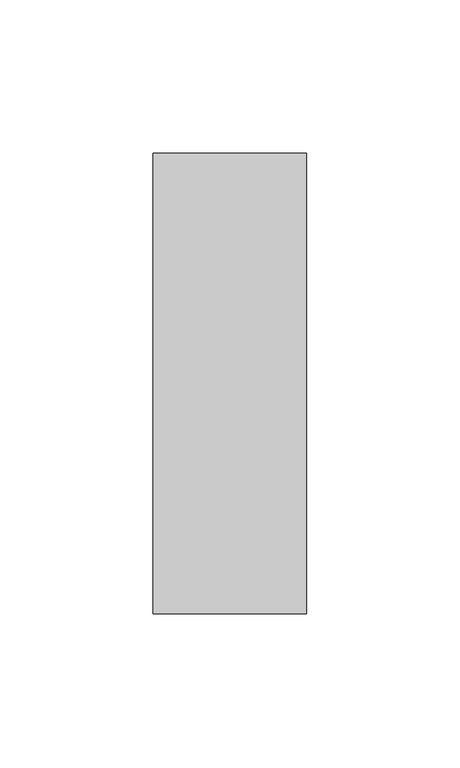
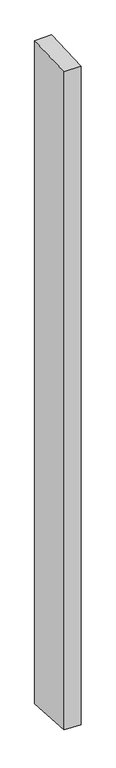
"""IFC4 building model written with IfcOpenShell, lengths in millimetres: member geometry, Прямоугольный импост : 50 x 150 мм."""

from ifc_helpers import new_model, si_unit, origin, place, context, project, spatial, faceted_brep, source, transform, mapped, element, save


def member_97c93422(model_context):
    return source(origin(), model_context, "Body", "Brep", [
        faceted_brep([(-25.0, 75.0, 2.9071175), (25.0, 75.0, 3.4252796), (25.0, 75.0, -2060.5959921), (-25.0, 75.0, -2059.9431899), (-25.0, -75.0, -3.4252796), (-25.0, -75.0, -2050.7210662), (25.0, -75.0, -2.9071175), (25.0, -75.0, -2051.3738684)], [[[0, 1, 2, 3]], [[4, 0, 3, 5]], [[6, 4, 5, 7]], [[1, 6, 7, 2]], [[1, 0, 4, 6]], [[2, 7, 5, 3]]]),
    ])


if __name__ == "__main__":
    model = new_model("IFC4")
    model_context = context("Model", 3, world=origin())
    ifc_project = project(units=[si_unit("LENGTHUNIT", "METRE", prefix="MILLI")], contexts=[model_context])
    site = spatial("IfcSite", under=ifc_project)
    building = spatial("IfcBuilding", under=site)
    placement = place(None, origin())
    member_shape = member_97c93422(model_context)
    element("IfcMember", 1, ObjectType="Прямоугольный импост : 50 x 150 мм", at=placement, inside=building, context=model_context, shape_type="MappedRepresentation", body=[
        mapped(member_shape, transform((0.0, 0.0, 0.0), x_axis=(1.0, 0.0, 0.0), y_axis=(0.0, 1.0, 0.0), z_axis=(0.0, 0.0, 1.0))),
    ])
    save(model, "model.ifc")
